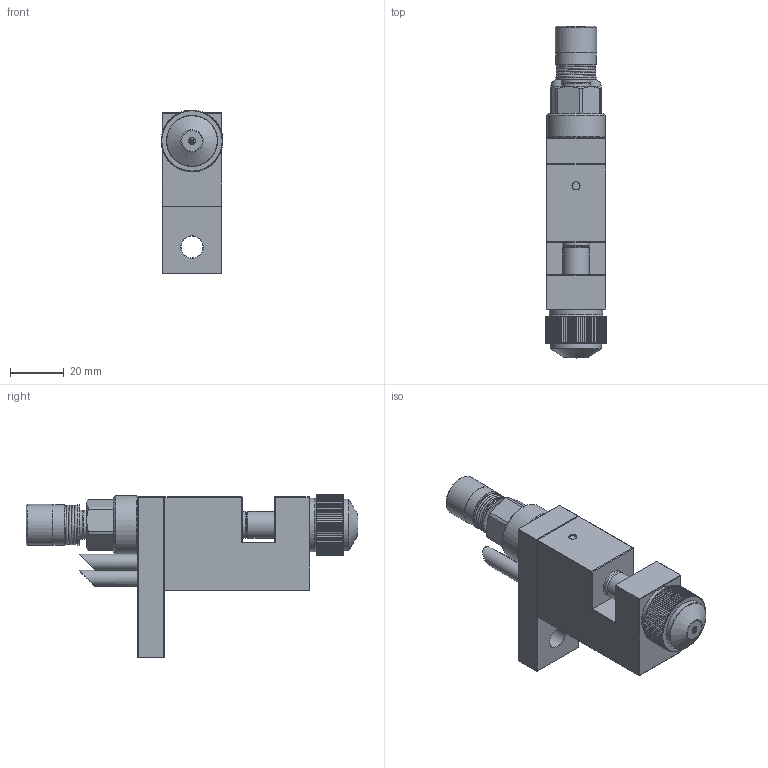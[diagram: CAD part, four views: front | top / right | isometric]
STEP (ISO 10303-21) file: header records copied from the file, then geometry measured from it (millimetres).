
FILE_DESCRIPTION (( 'STEP AP214' ), '1' );
FILE_NAME ('DAS-100-CR.STEP', '2024-10-11T10:13:42', ( '' ), ( '' ), 'SwSTEP 2.0', 'SolidWorks 2024', '' );
FILE_SCHEMA (( 'AUTOMOTIVE_DESIGN' ));
Length unit declared in the file: millimetre
Products named in the file (1): DAS-100-CR
Bounding box: 23 x 123.5 x 61 mm (x, y, z)
Volume: 66516 mm3; surface area: 20174.4 mm2
Topology: 2 solids, 9 shells, 697 faces, 1691 edges, 1034 vertices
Faces by surface type: cylinder 280, cone 254, plane 149, bspline 14
Full cylindrical faces by diameter (mm): 0.3 x1, 2.4 x5, 2.5 x1, 3 x1, 3.3 x3, 3.5 x1, 4 x6, 4.9 x1, 5 x1, 6 x4, 7 x3, 8 x9, 10 x1, 10.5 x1, 11.1 x1, 12 x1, 15 x2, 15.3 x1, 19 x1, 19.8 x1, 21.9 x1
Entity records: 22990 total; most frequent: CARTESIAN_POINT 7982, ORIENTED_EDGE 3102, DIRECTION 3006, EDGE_CURVE 1551, AXIS2_PLACEMENT_3D 1269, VERTEX_POINT 987, EDGE_LOOP 832, FACE_OUTER_BOUND 750
